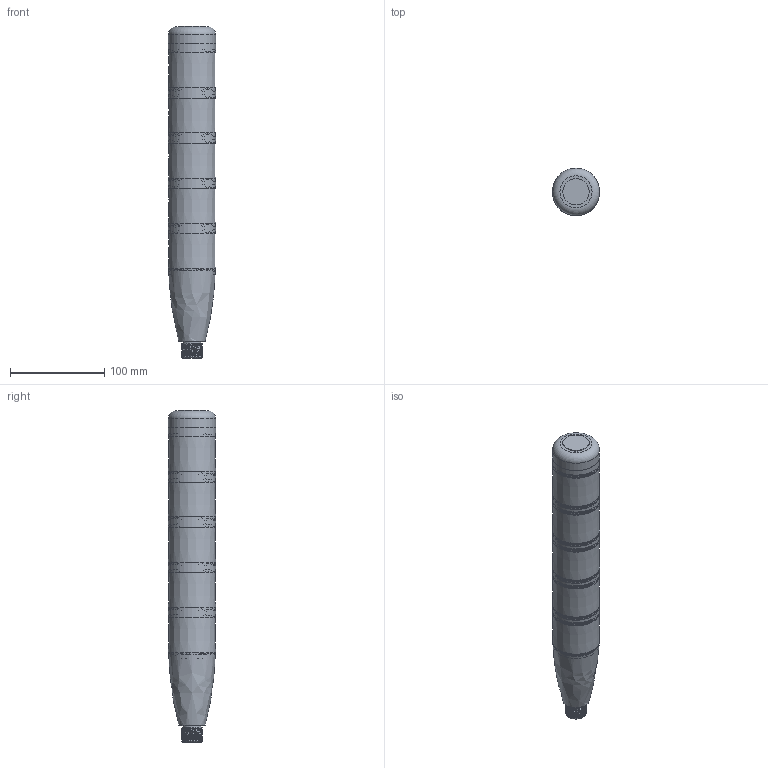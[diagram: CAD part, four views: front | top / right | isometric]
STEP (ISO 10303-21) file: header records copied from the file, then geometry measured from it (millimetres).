
FILE_DESCRIPTION(/* description */ (''),/* implementation_level */ '2;1');
FILE_NAME(/* name */ 'OLE3-501 常亮.stp',/* time_stamp */ '2022-12-13T18:49:18+08:00',/* author */ (''),/* organization */ (''),/* preprocessor_version */ 'ST-DEVELOPER v16.7',/* originating_system */ 'SIEMENS PLM Software NX 12.0',/* authorisation */ '');
FILE_SCHEMA (('AUTOMOTIVE_DESIGN { 1 0 10303 214 3 1 1 1 }'));
Length unit declared in the file: millimetre
Products named in the file (1): Admi15EC76A1t4xn
Bounding box: 50.3 x 50.3 x 352.5 mm (x, y, z)
Volume: 129766.2 mm3; surface area: 154886.9 mm2
Topology: 12 solids, 14 shells, 2065 faces, 6001 edges, 3997 vertices
Faces by surface type: plane 1288, cylinder 685, bspline 71, cone 19, torus 2
Full cylindrical faces by diameter (mm): 18 x2, 20 x1, 28 x1, 32 x5, 39 x5, 42 x1, 43 x3, 44 x5, 46.3 x6, 47 x1, 48.1 x1, 50 x1, 50.3 x5
Entity records: 100784 total; most frequent: CARTESIAN_POINT 45433, ORIENTED_EDGE 11818, DIRECTION 11561, EDGE_CURVE 5909, VERTEX_POINT 3957, AXIS2_PLACEMENT_3D 3941, LINE 3679, VECTOR 3679
